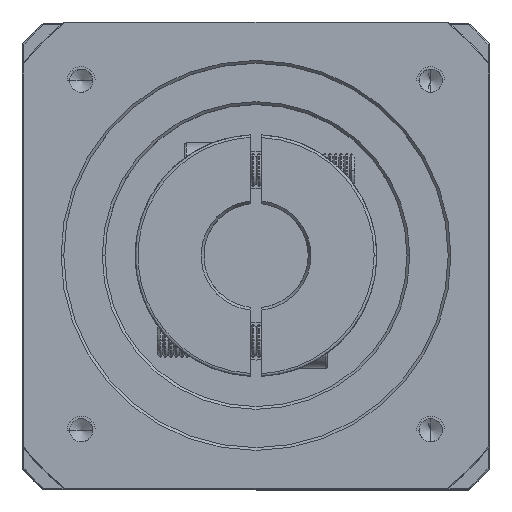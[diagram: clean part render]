
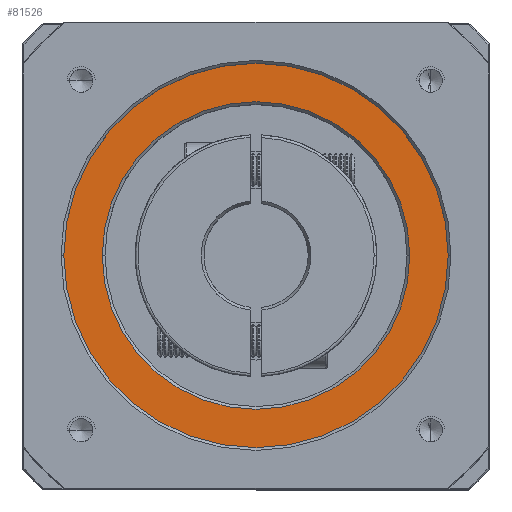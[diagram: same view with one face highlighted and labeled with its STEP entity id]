
A CAD part, top view. The second image highlights one B-rep face of the part: STEP entity #81526.
In plain terms, the highlighted planar face has unit normal (0, 0, 1).
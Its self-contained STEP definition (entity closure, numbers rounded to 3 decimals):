
#2367 = CIRCLE ( 'NONE', #35720, 35. ) ;
#3140 = CARTESIAN_POINT ( 'NONE',  ( -89.569, 30.666, 21.372 ) ) ;
#8372 = DIRECTION ( 'NONE',  ( 1., 0., 0. ) ) ;
#11949 = DIRECTION ( 'NONE',  ( 1., 0., 0. ) ) ;
#13305 = AXIS2_PLACEMENT_3D ( 'NONE', #3140, #63821, #11949 ) ;
#13954 = VERTEX_POINT ( 'NONE', #74029 ) ;
#14003 = CARTESIAN_POINT ( 'NONE',  ( -89.569, 30.666, 21.372 ) ) ;
#14745 = VERTEX_POINT ( 'NONE', #106173 ) ;
#18399 = CIRCLE ( 'NONE', #99660, 35. ) ;
#20350 = PLANE ( 'NONE',  #13305 ) ;
#20412 = VERTEX_POINT ( 'NONE', #88716 ) ;
#22735 = DIRECTION ( 'NONE',  ( 1., 0., 0. ) ) ;
#30457 = EDGE_CURVE ( 'NONE', #14745, #65422, #87101, .T. ) ;
#34861 = CARTESIAN_POINT ( 'NONE',  ( -89.569, 30.666, 21.372 ) ) ;
#35434 = EDGE_CURVE ( 'NONE', #13954, #20412, #18399, .T. ) ;
#35720 = AXIS2_PLACEMENT_3D ( 'NONE', #14003, #74410, #22735 ) ;
#37921 = FACE_BOUND ( 'NONE', #105414, .T. ) ;
#43596 = DIRECTION ( 'NONE',  ( 1., 0., 0. ) ) ;
#45056 = CARTESIAN_POINT ( 'NONE',  ( -117.569, 30.666, 21.372 ) ) ;
#46544 = AXIS2_PLACEMENT_3D ( 'NONE', #99669, #48338, #108282 ) ;
#48338 = DIRECTION ( 'NONE',  ( 0., 0., -1. ) ) ;
#59840 = EDGE_LOOP ( 'NONE', ( #63701, #65875 ) ) ;
#60322 = DIRECTION ( 'NONE',  ( 0., 0., 1. ) ) ;
#63701 = ORIENTED_EDGE ( 'NONE', *, *, #106464, .T. ) ;
#63821 = DIRECTION ( 'NONE',  ( 0., 0., 1. ) ) ;
#65422 = VERTEX_POINT ( 'NONE', #45056 ) ;
#65875 = ORIENTED_EDGE ( 'NONE', *, *, #35434, .T. ) ;
#70110 = ORIENTED_EDGE ( 'NONE', *, *, #30457, .T. ) ;
#72038 = ORIENTED_EDGE ( 'NONE', *, *, #85694, .T. ) ;
#74029 = CARTESIAN_POINT ( 'NONE',  ( -124.569, 30.666, 21.372 ) ) ;
#74410 = DIRECTION ( 'NONE',  ( 0., 0., 1. ) ) ;
#80898 = CIRCLE ( 'NONE', #46544, 28. ) ;
#81526 = ADVANCED_FACE ( 'NONE', ( #103725, #37921 ), #20350, .T. ) ;
#85694 = EDGE_CURVE ( 'NONE', #65422, #14745, #80898, .T. ) ;
#87101 = CIRCLE ( 'NONE', #92610, 28. ) ;
#88716 = CARTESIAN_POINT ( 'NONE',  ( -54.569, 30.666, 21.372 ) ) ;
#92610 = AXIS2_PLACEMENT_3D ( 'NONE', #34861, #94922, #43596 ) ;
#94922 = DIRECTION ( 'NONE',  ( 0., 0., -1. ) ) ;
#99660 = AXIS2_PLACEMENT_3D ( 'NONE', #111539, #60322, #8372 ) ;
#99669 = CARTESIAN_POINT ( 'NONE',  ( -89.569, 30.666, 21.372 ) ) ;
#103725 = FACE_OUTER_BOUND ( 'NONE', #59840, .T. ) ;
#105414 = EDGE_LOOP ( 'NONE', ( #70110, #72038 ) ) ;
#106173 = CARTESIAN_POINT ( 'NONE',  ( -61.569, 30.666, 21.372 ) ) ;
#106464 = EDGE_CURVE ( 'NONE', #20412, #13954, #2367, .T. ) ;
#108282 = DIRECTION ( 'NONE',  ( 1., 0., 0. ) ) ;
#111539 = CARTESIAN_POINT ( 'NONE',  ( -89.569, 30.666, 21.372 ) ) ;
